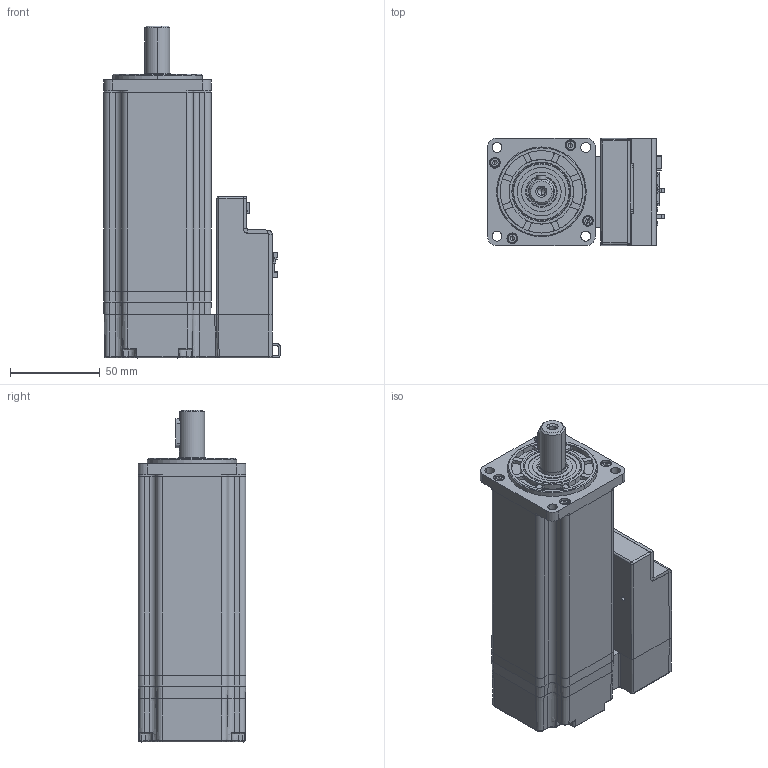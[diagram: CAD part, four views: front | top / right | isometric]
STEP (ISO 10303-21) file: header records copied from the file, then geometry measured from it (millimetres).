
FILE_DESCRIPTION (( 'STEP AP214' ), '1' );
FILE_NAME ('MD60(400W) with brake.STEP', '2021-01-05T19:49:19', ( '' ), ( '' ), 'SwSTEP 2.0', 'SolidWorks 2020', '' );
FILE_SCHEMA (( 'AUTOMOTIVE_DESIGN' ));
Length unit declared in the file: inch
Products named in the file (63): SPRING_LOCK_WASHERS--NORMA-1249; _2-S-237990001; REAR_COVER_ASM; SPRING_LOCK_WASHERS--NORM-51685; CJTA2008WV-4P_42_2_1; _1-SOLI_100; _2-S-296020001; _2_10001; 0226-22XX_35_1; _1_HEXAGON_SO-12280001; COVER-1_40_1; O-2-SOLI_100; 7_1_03_2551_SMC60S-0040-30MBK-3_ASM; B16B-PUDSS-1_13_1; HEXAGON_SOCKET_HEAD_CAP_S-15804; REAR_COVER_ASM_71_ASM_1_ASM; _1_-1_10001; PCB1_51_1; _1-SOLID_10; _1_-2-S_10001; MD60_020__ASM_1_ASM; _2-S-458900001; PCA1_ASM_50_ASM_1_ASM; _1-SOL_1000; _1_HEXAGON_S0001; MD60(400W) with brake; _2-S_10002; CJTA2008WV-4P_42_ASM_1_ASM; _1_-1-_10001; _1_HEXAGON_SO-31910001; HEXAGON_SOCKET_HEAD_CAP_S-56910; 19717_34_1; HEXAGON_SOCKET_HEAD_CAP_S-12836; XJ_7_1; HEXAGON_SOCKET_HEAD_CAP_S-39453; PC_7MM_46_1; PUDP-16V-S_13_1; HEXAGON_SOCKET_HEAD_CAP_S-17379; MD60HT_2019_01_08_53_1; HEXAGON_SOCKET_HEAD_CAP_S-42933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
Assembly tree (64 placements, depth 9):
  MD60(400W) with brake
    REAR_COVER_ASM
      7_1_03_2551_SMC60S-0040-30MBK-3_ASM
        400W_ASM
          _1-SOLID_10
          _2-S_10001
          SPRING_LOCK_WASHERS--NORMA-1249
          _1-SOL_1000
          _1_HEXAGON_SOC-3390001
          _1-SOLI_100
          _1_-1-_10001
          HEXAGON_SOCKET_HEAD_CAP_S-11268
          _1_HEXAGON_SO-12280001
          HEXAGON_SOCKET_HEAD_CAP_S-12836
          _2-S-144000001
          HEXAGON_SOCKET_HEAD_CAP_S-15804
          HEXAGON_SOCKET_HEAD_CAP_S-17379
          _2-S-222590001
          _1_-2-S_10001
          _1-SO_10001
          _2-S-237990001
          _1_HEXAGON_S0001
          _1_-1_0001
          _2-S-296020001
          _1_HEXAGON_SO-31910001
          _1-SO_10002
          O-2-SOLI_100
          HEXAGON_SOCKET_HEAD_CAP_S-39453
          HEXAGON_SOCKET_HEAD_CAP_S-40627
          _1_-1_10001
          HEXAGON_SOCKET_HEAD_CAP_S-42933
          HEXAGON_SOCKET_HEAD_CAP_S-44353
          _2-S-458900001
          _2-S-516510001
          SPRING_LOCK_WASHERS--NORM-51685
          _2-S_10002
          _2-S-523780001
          _2_10001
          HEXAGON_SOCKET_HEAD_CAP_S-56910
      MD60_020__ASM
        MD60_020__ASM_1_ASM
          0001_ASM_187_ASM_1_ASM
            REAR_COVER_ASM_71_ASM_1_ASM
              PC_7MM_46_1
              TIM_PCB1_42_1
              PCA_ASM_50_ASM_1_ASM
                PCA1_ASM_50_ASM_1_ASM
                  PCB1_51_1
                  MD60PCB2_50_1
                  B12B-PUDSS-1_16_1
                CJTA2008WV-4P_42_ASM_1_ASM
                  CJTA2008WV-4P_42_1_1
                  CJTA2008WV-4P_42_2_1
                ZLH-100V330UF_34_1
                0226-22XX_35_1
                19717_34_1
                B04B-ZESK-D_16_1  x2
                B16B-PUDSS-1_13_1
                PUDP-16V-S_13_1
              COVER_ASM_37_ASM_1_ASM
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Bounding box: 98.63 x 60.06 x 185.2 mm (x, y, z)
Volume: 326639.1 mm3; surface area: 206801.7 mm2
Topology: 53 solids, 53 shells, 4060 faces, 10382 edges, 6705 vertices
Faces by surface type: plane 2649, cylinder 1004, bspline 211, cone 196
Entity records: 138372 total; most frequent: CARTESIAN_POINT 39670, ORIENTED_EDGE 20296, DIRECTION 18944, EDGE_CURVE 10148, LINE 7212, VECTOR 7212, VERTEX_POINT 6591, AXIS2_PLACEMENT_3D 5866
